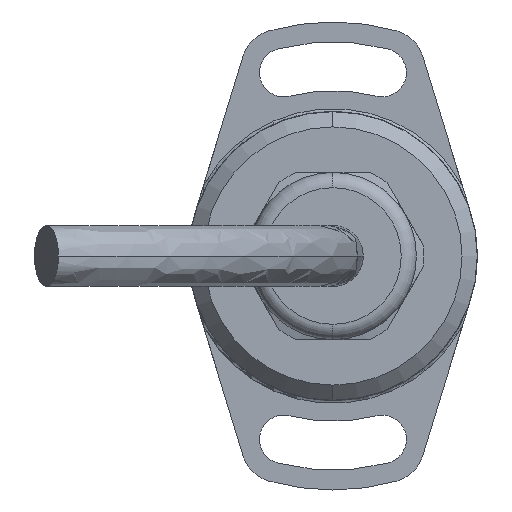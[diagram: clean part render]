
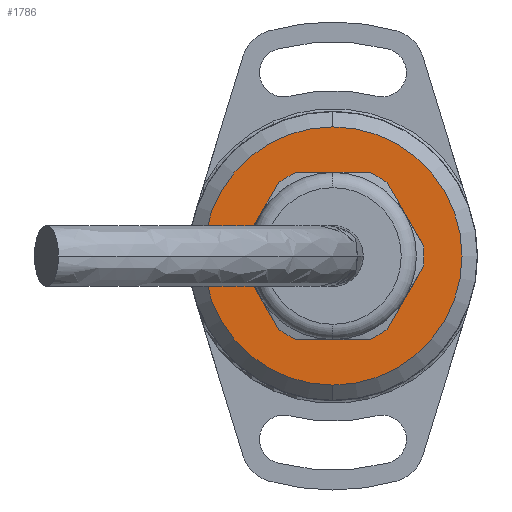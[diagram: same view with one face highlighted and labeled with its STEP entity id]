
A CAD part, left-side view. The second image highlights one B-rep face of the part: STEP entity #1786.
In plain terms, the highlighted planar face has unit normal (-1, 0, 0).
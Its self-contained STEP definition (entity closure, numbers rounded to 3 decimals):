
#185 = CARTESIAN_POINT ( 'NONE',  ( -34.05, 0., -5. ) ) ;
#209 = DIRECTION ( 'NONE',  ( -1., 0., 0. ) ) ;
#289 = EDGE_LOOP ( 'NONE', ( #1229, #3133 ) ) ;
#493 = CARTESIAN_POINT ( 'NONE',  ( -34.05, 0., 0. ) ) ;
#556 = DIRECTION ( 'NONE',  ( 1., 0., 0. ) ) ;
#607 = CARTESIAN_POINT ( 'NONE',  ( -34.05, 0., 5. ) ) ;
#682 = VERTEX_POINT ( 'NONE', #3278 ) ;
#760 = EDGE_CURVE ( 'NONE', #1011, #682, #2144, .T. ) ;
#799 = AXIS2_PLACEMENT_3D ( 'NONE', #1639, #556, #1663 ) ;
#934 = CARTESIAN_POINT ( 'NONE',  ( -34.05, 0., 8.5 ) ) ;
#958 = CIRCLE ( 'NONE', #3034, 8.5 ) ;
#961 = CARTESIAN_POINT ( 'NONE',  ( -34.05, 0., 0. ) ) ;
#1011 = VERTEX_POINT ( 'NONE', #934 ) ;
#1229 = ORIENTED_EDGE ( 'NONE', *, *, #2735, .T. ) ;
#1252 = ORIENTED_EDGE ( 'NONE', *, *, #4403, .F. ) ;
#1308 = PLANE ( 'NONE',  #799 ) ;
#1477 = DIRECTION ( 'NONE',  ( 0., 0., -1. ) ) ;
#1639 = CARTESIAN_POINT ( 'NONE',  ( -34.05, 0., 0. ) ) ;
#1663 = DIRECTION ( 'NONE',  ( 0., 0., -1. ) ) ;
#1692 = ORIENTED_EDGE ( 'NONE', *, *, #4348, .F. ) ;
#1726 = AXIS2_PLACEMENT_3D ( 'NONE', #961, #209, #2347 ) ;
#1786 = ADVANCED_FACE ( 'NONE', ( #3651, #1989 ), #1308, .F. ) ;
#1936 = DIRECTION ( 'NONE',  ( 0., 0., 1. ) ) ;
#1989 = FACE_BOUND ( 'NONE', #3046, .T. ) ;
#2144 = CIRCLE ( 'NONE', #3083, 8.5 ) ;
#2200 = VERTEX_POINT ( 'NONE', #185 ) ;
#2347 = DIRECTION ( 'NONE',  ( 0., 0., 1. ) ) ;
#2537 = DIRECTION ( 'NONE',  ( -1., 0., 0. ) ) ;
#2562 = CARTESIAN_POINT ( 'NONE',  ( -34.05, 0., 0. ) ) ;
#2682 = CARTESIAN_POINT ( 'NONE',  ( -34.05, 0., 0. ) ) ;
#2732 = AXIS2_PLACEMENT_3D ( 'NONE', #2682, #4024, #1936 ) ;
#2735 = EDGE_CURVE ( 'NONE', #682, #1011, #958, .T. ) ;
#2919 = DIRECTION ( 'NONE',  ( -1., 0., 0. ) ) ;
#3034 = AXIS2_PLACEMENT_3D ( 'NONE', #493, #2537, #1477 ) ;
#3046 = EDGE_LOOP ( 'NONE', ( #1252, #1692 ) ) ;
#3083 = AXIS2_PLACEMENT_3D ( 'NONE', #2562, #2919, #4285 ) ;
#3133 = ORIENTED_EDGE ( 'NONE', *, *, #760, .T. ) ;
#3278 = CARTESIAN_POINT ( 'NONE',  ( -34.05, 0., -8.5 ) ) ;
#3292 = CIRCLE ( 'NONE', #1726, 5. ) ;
#3651 = FACE_OUTER_BOUND ( 'NONE', #289, .T. ) ;
#3848 = VERTEX_POINT ( 'NONE', #607 ) ;
#4024 = DIRECTION ( 'NONE',  ( -1., 0., 0. ) ) ;
#4083 = CIRCLE ( 'NONE', #2732, 5. ) ;
#4285 = DIRECTION ( 'NONE',  ( 0., 0., -1. ) ) ;
#4348 = EDGE_CURVE ( 'NONE', #2200, #3848, #4083, .T. ) ;
#4403 = EDGE_CURVE ( 'NONE', #3848, #2200, #3292, .T. ) ;
